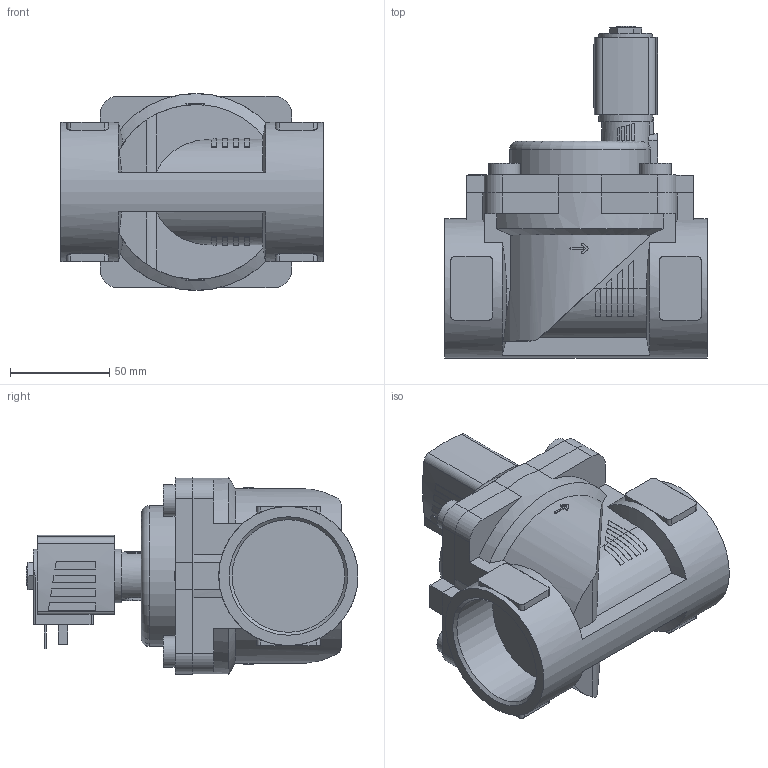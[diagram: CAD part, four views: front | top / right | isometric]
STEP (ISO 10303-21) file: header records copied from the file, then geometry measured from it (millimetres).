
FILE_DESCRIPTION(/* description */ ('STEP AP214'),/* implementation_level */ '2;1');
FILE_NAME(/* name */ '6281-305980-2_2-Way_Solenoid_Valve__Servo-assisted__General_Purpose',/* time_stamp */ '2024-09-06T10:17:26+02:00',/* author */ ('License CC BY-ND 4.0'),/* organization */ ('CADENAS'),/* preprocessor_version */ 'ST-DEVELOPER v19.3',/* originating_system */ 'PARTsolutions',/* authorisation */ ' ');
FILE_SCHEMA (('AUTOMOTIVE_DESIGN {1 0 10303 214 3 1 1}'));
Length unit declared in the file: millimetre
Products named in the file (4): 6281-305980-2/2-Way Solenoid Valve, Servo-assisted, General Purpose; 5281ev400VA2/2-Wege-Magnetventil mit Servomembran-Deckel 99 ; 6213-40G2VA-Gehaeuse-; AC10ex-5NA38-Plan-Coil
Assembly tree (3 placements, depth 2):
  6281-305980-2/2-Way Solenoid Valve, Servo-assisted, General Purpose
    5281ev400VA2/2-Wege-Magnetventil mit Servomembran-Deckel 99 
    6213-40G2VA-Gehaeuse-
    AC10ex-5NA38-Plan-Coil
Bounding box: 132 x 167 x 99 mm (x, y, z)
Volume: 749138.4 mm3; surface area: 102616.6 mm2
Topology: 3 solids, 3 shells, 357 faces, 938 edges, 620 vertices
Faces by surface type: plane 246, cylinder 95, cone 15, torus 1
Full cylindrical faces by diameter (mm): 2.013 x1, 9.74 x1, 16 x4, 27 x1, 56.656 x2, 70 x1
Entity records: 12291 total; most frequent: CARTESIAN_POINT 2173, ORIENTED_EDGE 1828, DIRECTION 1810, EDGE_CURVE 914, VERTEX_POINT 612, AXIS2_PLACEMENT_3D 612, LINE 586, VECTOR 586
